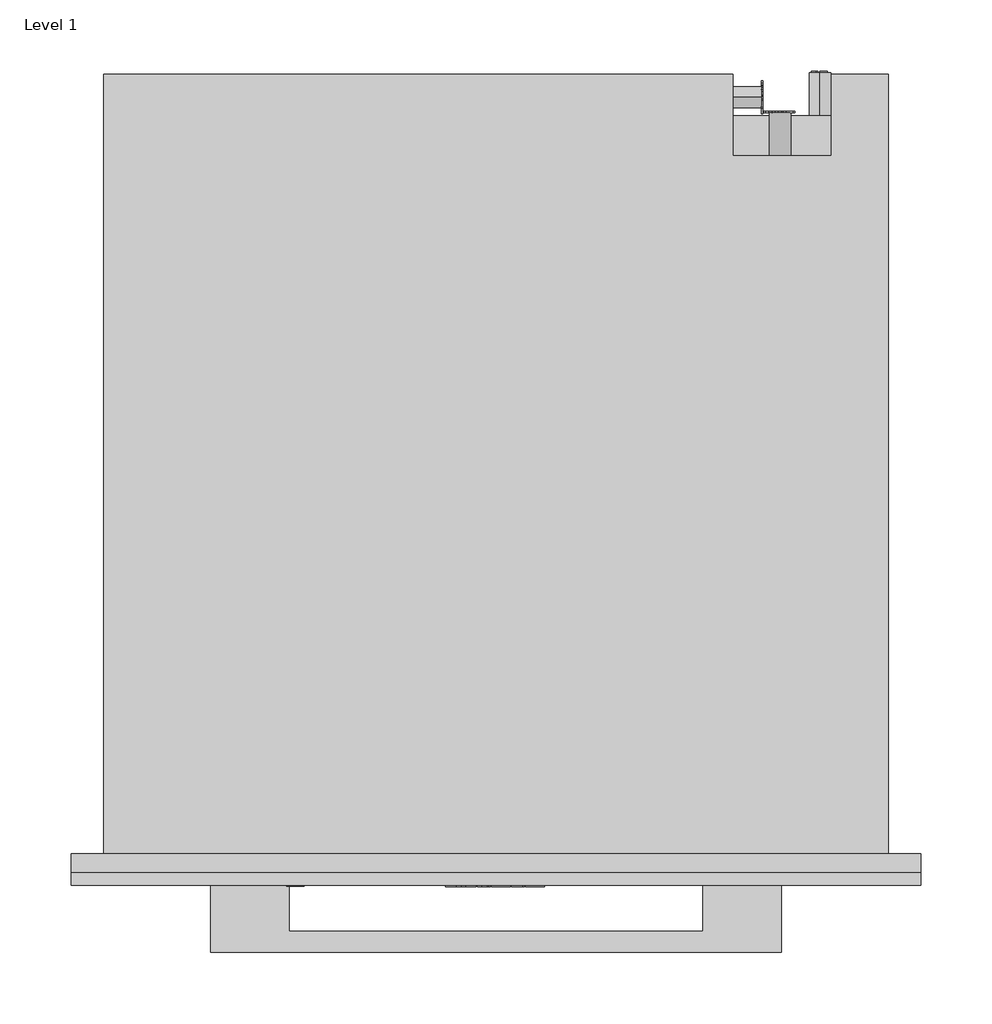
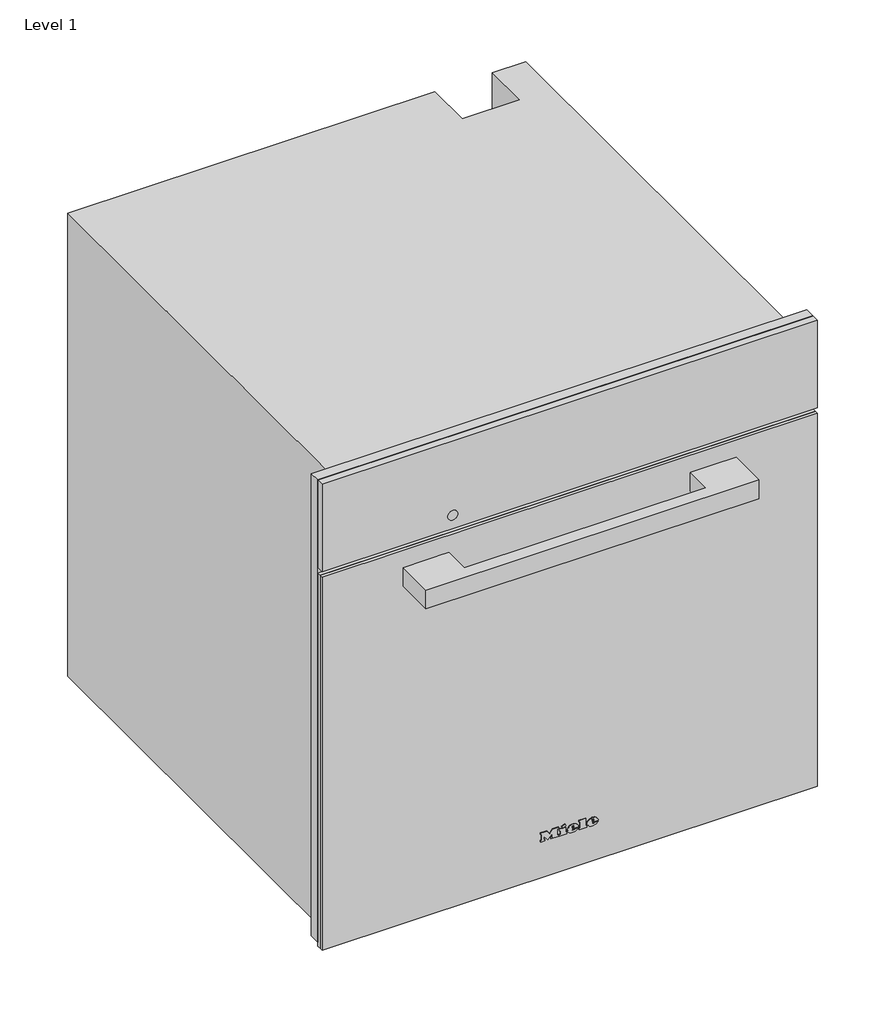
# One storey: 1 proxy.
"""IFC4 building model written with IfcOpenShell, lengths in millimetres."""

from ifc_helpers import new_model, si_unit, origin, place, context, project, spatial, transform, mapped, element, save
from components import specialty_equipment_ab99b57f

model = new_model("IFC4")

# Units and contexts
model_context = context("Model", 3, world=origin())
ifc_project = project(units=[si_unit("LENGTHUNIT", "METRE", prefix="MILLI")], contexts=[model_context])

# Site, building, storey
site = spatial("IfcSite", under=ifc_project)
building = spatial("IfcBuilding", under=site)
storey = spatial("IfcBuildingStorey", under=building, Name="Level 1", Elevation=0.0)

# Proxy
placement = place(None, origin())
specialty_equipment_shape = specialty_equipment_ab99b57f(model_context)
element("IfcBuildingElementProxy", 1, Name="11107320_D_DGC7865_GRGR : 23786533_D_11107320_DGC7865_GRGR", ObjectType="11107320_D_DGC7865_GRGR : 23786533_D_11107320_DGC7865_GRGR", at=placement, inside=storey, context=model_context, shape_type="MappedRepresentation", body=[
    mapped(specialty_equipment_shape, transform((0.0, 0.0, 0.0), x_axis=(1.0, 0.0, 0.0), y_axis=(0.0, 1.0, 0.0), z_axis=(0.0, 0.0, 1.0))),
])

save(model, "model.ifc")
